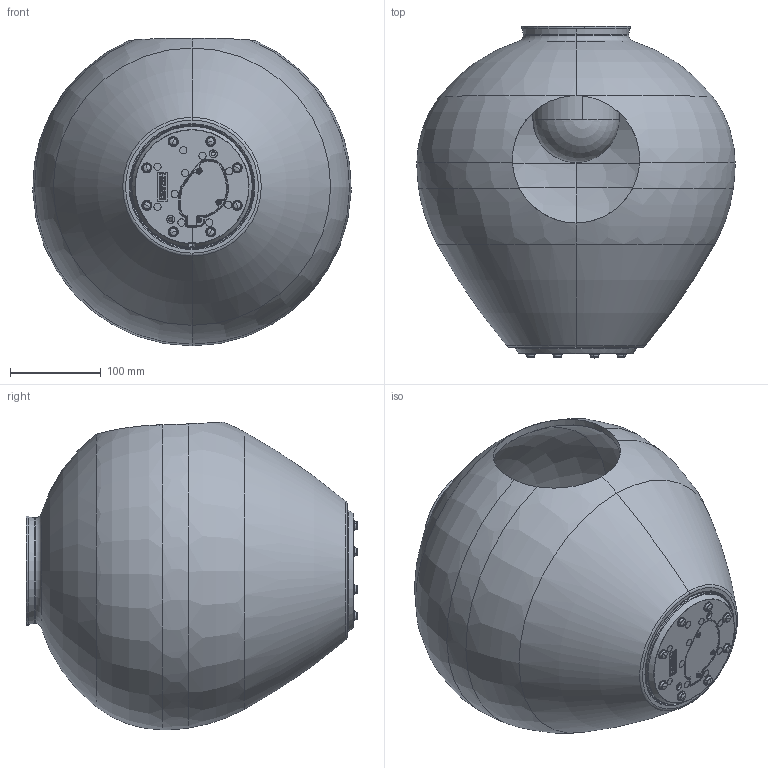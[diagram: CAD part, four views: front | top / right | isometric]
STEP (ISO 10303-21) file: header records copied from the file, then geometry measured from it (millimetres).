
FILE_DESCRIPTION (( 'STEP AP214' ), '1' );
FILE_NAME ('301_STD_T_LD_3D.STEP', '2021-05-06T15:28:59', ( '' ), ( '' ), 'SwSTEP 2.0', 'SolidWorks 2021', '' );
FILE_SCHEMA (( 'AUTOMOTIVE_DESIGN' ));
Length unit declared in the file: millimetre
Products named in the file (1): 301_STD_T_LD_3D
Bounding box: 349.79 x 364.84 x 338.25 mm (x, y, z)
Volume: 2791480.8 mm3; surface area: 871990.6 mm2
Topology: 13 solids, 13 shells, 5418 faces, 13681 edges, 8451 vertices
Faces by surface type: plane 2455, bspline 1264, torus 646, cylinder 579, cone 454, sphere 20
Entity records: 289694 total; most frequent: CARTESIAN_POINT 113692, ORIENTED_EDGE 27230, DIRECTION 20002, EDGE_CURVE 13615, VERTEX_POINT 8451, VECTOR 6820, LINE 6820, AXIS2_PLACEMENT_3D 6591
